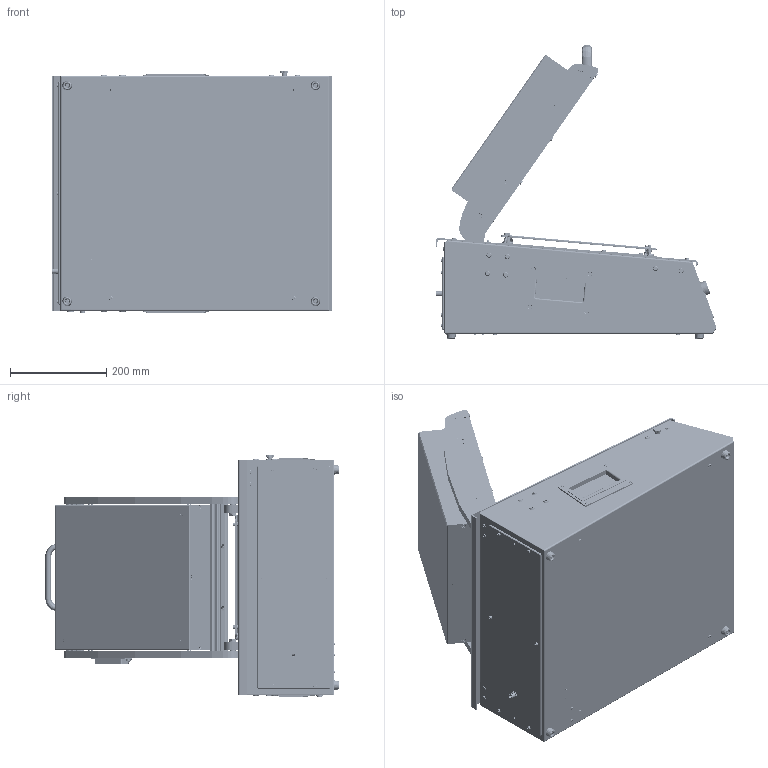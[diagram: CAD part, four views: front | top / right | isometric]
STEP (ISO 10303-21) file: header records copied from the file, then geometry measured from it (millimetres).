
FILE_DESCRIPTION (( 'STEP AP214' ), '1' );
FILE_NAME ('ARF-UPe-P-NSHA2 - Ouvert.STEP', '2026-09-29T07:11:57', ( '' ), ( '' ), 'SwSTEP 2.0', 'SolidWorks 2015', '' );
FILE_SCHEMA (( 'AUTOMOTIVE_DESIGN' ));
Length unit declared in the file: millimetre
Products named in the file (146): az_03; M05 Ef; 8122_073; chc_04x08; 8122_001 - STEP; Tête moltée M5; 8122_006 - STEP; F Torx 03x12; RM_5; 54-1-3029_02; RM_6; 8122_131 - STEP; bague de guidage delrin; M03 Hu; F Torx 04x10; 8122_144; 8122_107 - STEP; chc_05x40; F Torx 05x25; 8122_111; 8131_110 (PlaqueID); chc_03x05; ehff_3x10; 8122_143 - STEP; 8122_114; 8122_171; 8122_126; ehmf_4x25; el_d5x5; 8122_005 - STEP; 8007_070; chc_04x16; 8122_162; AN110_01; M04 Hu; 8122_136; C8525-60_ROD; eac_m4; 8122_160; chc_06x16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
Assembly tree (429 placements, depth 5):
  ARF-UPe-P-NSHA2 - Ouvert
    8122_002
      8122_125
        8122_125
        eac_m4  x24
        eac_m5  x4
      8122_007_Version C
        8122_112_version C
        8122_113_version C
        Tête moltée M5
        ASR_T030180172L
        M05 Hu
        F Torx 04x14  x2
        chc_05x40
        Rd Cuv pleine M4  x2
        el_d5x5
        gd5x20
        gd4x20
      8122_162  x2
      8131_110 (PlaqueID)
      8122_161  x2
      poignée pliable  x2
      048_2000_114_07  x4
      54-1-3029_01  x2
      CIR_EXT_D5.6  x2
      chc_02,5x20  x2
      M02.5 h  x2
      M03 Hu
      F Torx 03x12
      az_03
      Rd Cuv pleine M4  x8
      F Torx 04x18  x8
      F Torx 04x08  x8
      F Torx 05x08  x4
      TCBL TORX M4X10  x2
      RM_4  x2
      RIVET 3 COURT  x4
      chc_04x08  x4
      8007_043_
        SY5120_5LZD_01
        AN110_01  x2
        KQ2L06-01NS  x3
      pression ESD
      AS1002F-06A  x2
      230-6322
      KQ2U06800A  x2
      8007_042
        8007_070
          8007_700
          22-27-2021  x2
          22-27-2031
        ehff_3x10  x2
        chc_03x06  x4
    8122_003 - STEP_Ouvert
      8122_005 - STEP
        8122_107 - STEP
          8122_107
          eac_m5  x4
          eac_m4  x6
        8122_130  x2
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Bounding box: 582.98 x 610.27 x 503 mm (x, y, z)
Volume: 8541619.1 mm3; surface area: 4085379.2 mm2
Topology: 422 solids, 576 shells, 13770 faces, 34527 edges, 22288 vertices
Faces by surface type: cylinder 6259, plane 4782, cone 1932, torus 464, bspline 313, sphere 20
Entity records: 233889 total; most frequent: CARTESIAN_POINT 57836, DIRECTION 33700, ORIENTED_EDGE 31395, EDGE_CURVE 15934, AXIS2_PLACEMENT_3D 12499, VERTEX_POINT 10449, VECTOR 8702, LINE 8702
